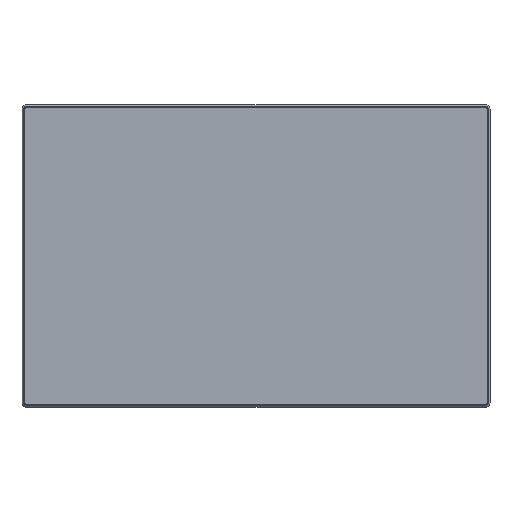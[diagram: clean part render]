
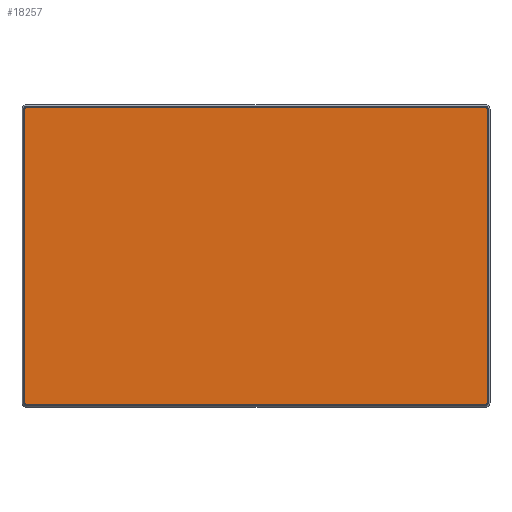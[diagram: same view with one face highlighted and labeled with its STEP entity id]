
A CAD part, top view. The second image highlights one B-rep face of the part: STEP entity #18257.
In plain terms, the highlighted planar face has unit normal (0, 0, 1).
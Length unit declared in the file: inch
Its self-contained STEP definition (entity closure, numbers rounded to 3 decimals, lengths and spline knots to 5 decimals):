
#8920=DIRECTION('',(0.,1.,0.));
#8921=VECTOR('',#8920,10.07874);
#8922=CARTESIAN_POINT('',(0.10252,0.15748,
2.65512));
#8923=LINE('',#8922,#8921);
#8924=CARTESIAN_POINT('',(0.15748,10.23622,2.65512));
#8925=DIRECTION('',(0.,0.,-1.));
#8926=DIRECTION('',(-1.,0.,0.));
#8927=AXIS2_PLACEMENT_3D('',#8924,#8925,#8926);
#8929=DIRECTION('',(1.,0.,0.));
#8930=VECTOR('',#8929,15.74803);
#8931=CARTESIAN_POINT('',(0.15748,10.29118,2.65512));
#8932=LINE('',#8931,#8930);
#8933=CARTESIAN_POINT('',(15.90551,10.23622,2.65512));
#8934=DIRECTION('',(0.,0.,-1.));
#8935=DIRECTION('',(0.,1.,0.));
#8936=AXIS2_PLACEMENT_3D('',#8933,#8934,#8935);
#8938=DIRECTION('',(0.,-1.,0.));
#8939=VECTOR('',#8938,10.07874);
#8940=CARTESIAN_POINT('',(15.96047,10.23622,2.65512));
#8941=LINE('',#8940,#8939);
#8942=CARTESIAN_POINT('',(15.90551,0.15748,2.65512));
#8943=DIRECTION('',(0.,0.,-1.));
#8944=DIRECTION('',(1.,0.,0.));
#8945=AXIS2_PLACEMENT_3D('',#8942,#8943,#8944);
#8947=DIRECTION('',(-1.,0.,0.));
#8948=VECTOR('',#8947,15.74803);
#8949=CARTESIAN_POINT('',(15.90551,0.10252,2.65512));
#8950=LINE('',#8949,#8948);
#8951=CARTESIAN_POINT('',(0.15748,0.15748,
2.65512));
#8952=DIRECTION('',(0.,0.,-1.));
#8953=DIRECTION('',(0.,-1.,0.));
#8954=AXIS2_PLACEMENT_3D('',#8951,#8952,#8953);
#10733=CARTESIAN_POINT('',(0.10252,10.23622,
2.65512));
#10734=CARTESIAN_POINT('',(0.15748,10.29118,
2.65512));
#10735=VERTEX_POINT('',#10733);
#10736=VERTEX_POINT('',#10734);
#10737=CARTESIAN_POINT('',(0.10252,0.15748,
2.65512));
#10738=VERTEX_POINT('',#10737);
#10739=CARTESIAN_POINT('',(15.90551,10.29118,2.65512));
#10740=VERTEX_POINT('',#10739);
#10741=CARTESIAN_POINT('',(15.96047,10.23622,2.65512));
#10742=VERTEX_POINT('',#10741);
#10743=CARTESIAN_POINT('',(15.96047,0.15748,
2.65512));
#10744=VERTEX_POINT('',#10743);
#10745=CARTESIAN_POINT('',(15.90551,0.10252,
2.65512));
#10746=VERTEX_POINT('',#10745);
#10747=CARTESIAN_POINT('',(0.15748,0.10252,
2.65512));
#10748=VERTEX_POINT('',#10747);
#18235=CARTESIAN_POINT('',(8.0315,5.19685,2.65512));
#18236=DIRECTION('',(0.,0.,1.));
#18237=DIRECTION('',(1.,0.,0.));
#18238=AXIS2_PLACEMENT_3D('',#18235,#18236,#18237);
#18239=PLANE('',#18238);
#18241=ORIENTED_EDGE('',*,*,#18240,.T.);
#18242=ORIENTED_EDGE('',*,*,#18225,.T.);
#18244=ORIENTED_EDGE('',*,*,#18243,.T.);
#18246=ORIENTED_EDGE('',*,*,#18245,.T.);
#18248=ORIENTED_EDGE('',*,*,#18247,.T.);
#18250=ORIENTED_EDGE('',*,*,#18249,.T.);
#18252=ORIENTED_EDGE('',*,*,#18251,.T.);
#18254=ORIENTED_EDGE('',*,*,#18253,.T.);
#18255=EDGE_LOOP('',(#18241,#18242,#18244,#18246,#18248,#18250,#18252,#18254));
#18256=FACE_OUTER_BOUND('',#18255,.F.);
#18257=ADVANCED_FACE('',(#18256),#18239,.T.);
#8928=CIRCLE('',#8927,0.05496);
#8937=CIRCLE('',#8936,0.05496);
#8946=CIRCLE('',#8945,0.05496);
#8955=CIRCLE('',#8954,0.05496);
#18225=EDGE_CURVE('',#10735,#10736,#8928,.T.);
#18240=EDGE_CURVE('',#10738,#10735,#8923,.T.);
#18243=EDGE_CURVE('',#10736,#10740,#8932,.T.);
#18245=EDGE_CURVE('',#10740,#10742,#8937,.T.);
#18247=EDGE_CURVE('',#10742,#10744,#8941,.T.);
#18249=EDGE_CURVE('',#10744,#10746,#8946,.T.);
#18251=EDGE_CURVE('',#10746,#10748,#8950,.T.);
#18253=EDGE_CURVE('',#10748,#10738,#8955,.T.);
